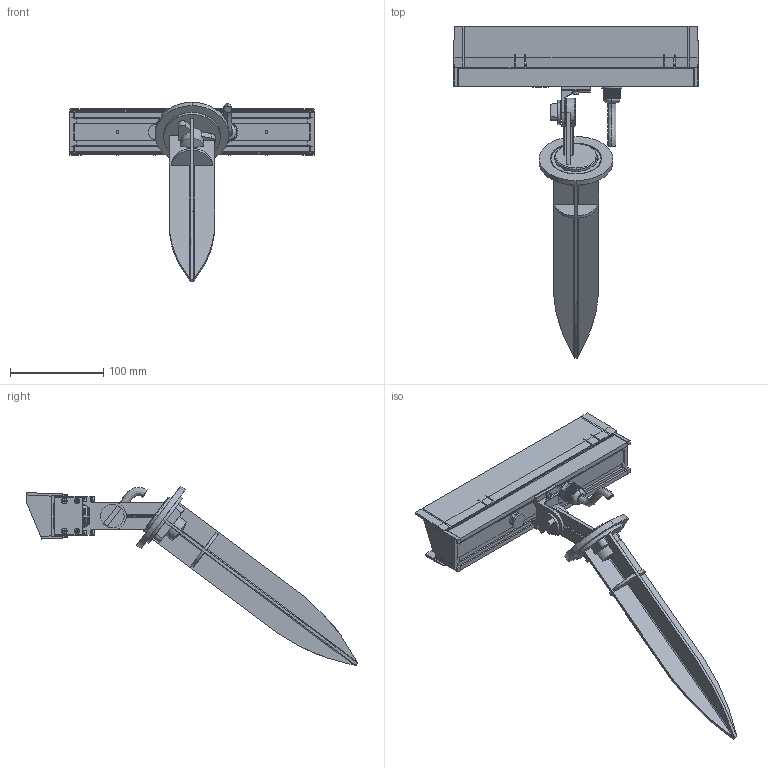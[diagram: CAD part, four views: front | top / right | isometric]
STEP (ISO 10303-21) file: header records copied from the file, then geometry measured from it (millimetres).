
FILE_DESCRIPTION((''),'2;1');
FILE_NAME('B3KA0657_ASM','2020-06-11T',('Administrator'),(''),'PRO/ENGINEER BY PARAMETRIC TECHNOLOGY CORPORATION, 2010480','PRO/ENGINEER BY PARAMETRIC TECHNOLOGY CORPORATION, 2010480','');
FILE_SCHEMA(('CONFIG_CONTROL_DESIGN'));
Products named in the file (30): 6K_DT_06_14; 6K_LJB_24PCS_5; B17_A_; 6K_LJB_ZJ_ASM_6_ASM; 6K_ZYG_47; ISO7045-M3X9-4_8_1; 6K-O; 6K_ZYG_ZJ_ASM_6_ASM; 6K_BL_06_9; PAD_1_1; FANGUANGSAI-1_1_1; FANGSHUISAI_1_1; MANIFOLEF_1_1; PG9_ASM_1_ASM; QI_FA; B17_TJ_4; ICRFC0406_3; 6R-A_; B6K0657_ASM_45_ASM; _7H; 6Q-B_1; 6Q-B_2; M3-6; 7A-DI_CHA; M4-10; PRT0025_1_1_1_59; HUANG_GUAN_M5; ADWTFSD7_7_13; 01_ASM; B3KA0657_ASM
Assembly tree (43 placements, depth 4):
  B3KA0657_ASM
    B6K0657_ASM_45_ASM
      6K_DT_06_14
      6K_LJB_ZJ_ASM_6_ASM
        6K_LJB_24PCS_5
        B17_A_
      6K_ZYG_ZJ_ASM_6_ASM  x2
        6K_ZYG_47
        ISO7045-M3X9-4_8_1
        6K-O
      6K_BL_06_9
      PG9_ASM_1_ASM
        PAD_1_1
        FANGUANGSAI-1_1_1
        FANGSHUISAI_1_1
        MANIFOLEF_1_1
      QI_FA
      B17_TJ_4  x6
      ICRFC0406_3  x3
      6R-A_
    01_ASM
      _7H
      6Q-B_1
      6Q-B_2
      M3-6  x2
      7A-DI_CHA
      M4-10  x3
      PRT0025_1_1_1_59
      HUANG_GUAN_M5
      ADWTFSD7_7_13
Bounding box: 262 x 355.88 x 192.43 mm (x, y, z)
Volume: 421759.6 mm3; surface area: 296358.3 mm2
Topology: 43 solids, 43 shells, 3524 faces, 9787 edges, 6340 vertices
Faces by surface type: plane 2321, cylinder 730, cone 201, bspline 180, extrusion 28, sphere 26, torus 26, revolution 12
Entity records: 118437 total; most frequent: CARTESIAN_POINT 46160, ORIENTED_EDGE 15930, DIRECTION 13530, EDGE_CURVE 7965, VECTOR 5326, LINE 5298, VERTEX_POINT 5231, AXIS2_PLACEMENT_3D 4101
